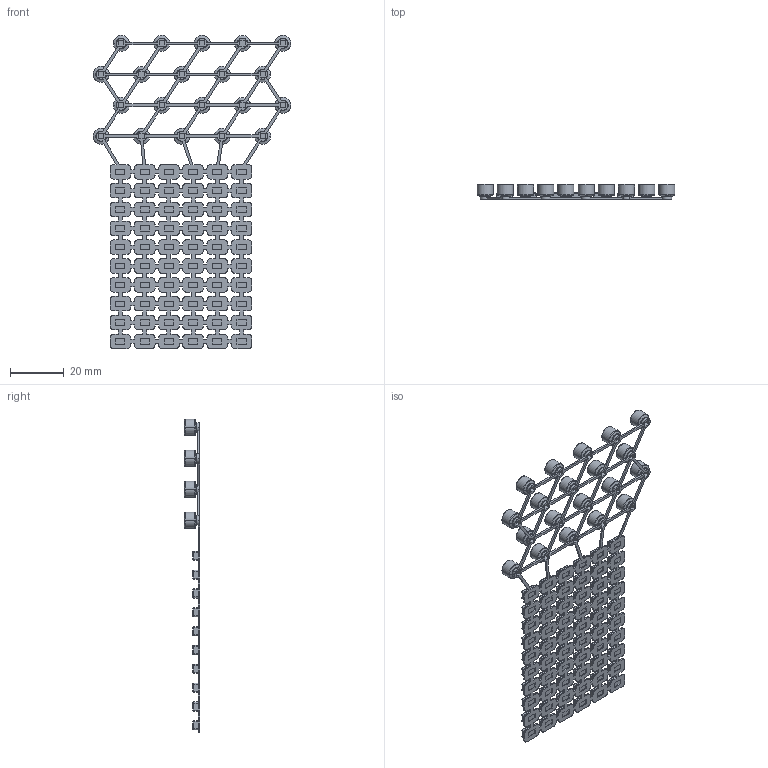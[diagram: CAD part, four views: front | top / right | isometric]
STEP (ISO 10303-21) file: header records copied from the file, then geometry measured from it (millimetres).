
FILE_DESCRIPTION (( 'STEP AP214' ), '1' );
FILE_NAME ('Key-60_Pen H5.7-20.STEP', '2026-02-17T22:14:02', ( 'Sergey' ), ( '' ), 'SwSTEP 2.0', 'SolidWorks 2015', '' );
FILE_SCHEMA (( 'AUTOMOTIVE_DESIGN' ));
Length unit declared in the file: millimetre
Products named in the file (1): Key-60_Pen H5.7-20
Bounding box: 73.5 x 5.7 x 116.4 mm (x, y, z)
Volume: 6270.9 mm3; surface area: 12577 mm2
Topology: 1 solids, 1 shells, 2689 faces, 7012 edges, 4448 vertices
Faces by surface type: plane 1489, cylinder 800, torus 360, sphere 40
Entity records: 82286 total; most frequent: DIRECTION 14650, CARTESIAN_POINT 14150, ORIENTED_EDGE 14024, EDGE_CURVE 7012, AXIS2_PLACEMENT_3D 4948, VECTOR 4754, LINE 4754, VERTEX_POINT 4448
